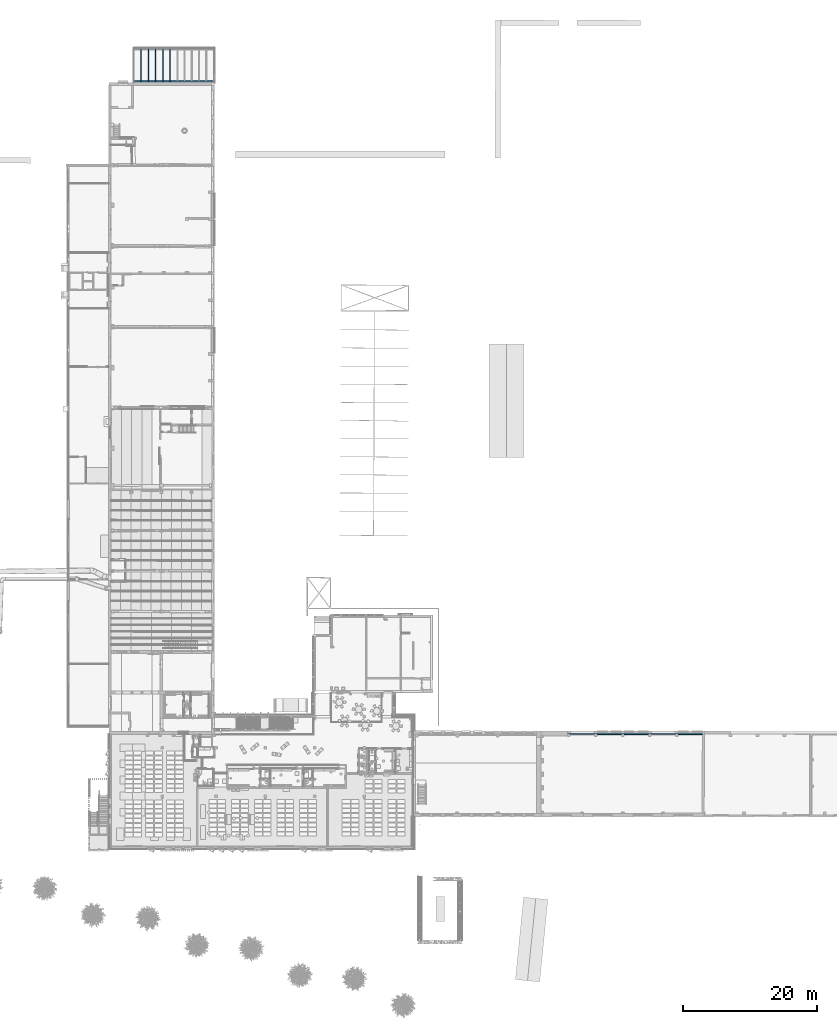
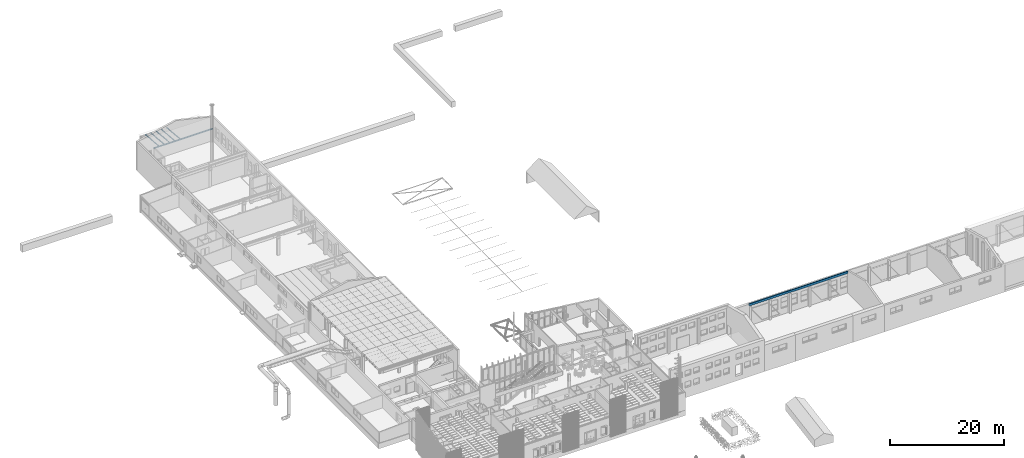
# One storey, part 64 of 301: 7 beams.
"""IFC2X3 building model written with IfcOpenShell, lengths in millimetres."""

from ifc_helpers import new_model, entity, si_unit, converted_unit, derived_unit, money_unit, direction, frame, origin_with_axes, place, context, subcontext, project, spatial, faceted_brep, material, type_object, element, save


model = new_model("IFC2X3")

# Units and contexts
model_context = context("Model", 3, precision=0.01, world=origin_with_axes(), true_north=direction((0.0, 1.0)))
body_context = subcontext(model_context, "Body", "Model", "MODEL_VIEW")
ifc_project = project(units=[si_unit("LENGTHUNIT", "METRE", prefix="MILLI"), si_unit("AREAUNIT", "SQUARE_METRE"), si_unit("VOLUMEUNIT", "CUBIC_METRE"), converted_unit("PLANEANGLEUNIT", "DEGREE", entity("IfcPlaneAngleMeasure", 0.0174532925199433), si_unit("PLANEANGLEUNIT", "RADIAN"), dimensions=[0, 0, 0, 0, 0, 0, 0]), money_unit("EUR"), converted_unit("TIMEUNIT", "Year", entity("IfcTimeMeasure", 31557600.0), si_unit("TIMEUNIT", "SECOND"), dimensions=[0, 0, 1, 0, 0, 0, 0]), si_unit("MASSUNIT", "GRAM", prefix="KILO"), si_unit("THERMODYNAMICTEMPERATUREUNIT", "DEGREE_CELSIUS"), si_unit("LUMINOUSINTENSITYUNIT", "LUMEN"), si_unit("ENERGYUNIT", "JOULE", prefix="MEGA"), derived_unit("THERMALCONDUCTANCEUNIT", [(si_unit("POWERUNIT", "WATT"), 1), (si_unit("LENGTHUNIT", "METRE"), -1), (si_unit("THERMODYNAMICTEMPERATUREUNIT", "KELVIN"), -1)]), derived_unit("SPECIFICHEATCAPACITYUNIT", [(si_unit("ENERGYUNIT", "JOULE"), 1), (si_unit("MASSUNIT", "GRAM", prefix="KILO"), -1), (si_unit("THERMODYNAMICTEMPERATUREUNIT", "KELVIN"), -1)]), derived_unit("MASSDENSITYUNIT", [(si_unit("MASSUNIT", "GRAM", prefix="KILO"), 1), (si_unit("VOLUMEUNIT", "CUBIC_METRE"), -1)])], contexts=[model_context])

# Site, building, storey
site_placement = place(None, frame((0.0, 0.0, 8650.0), z_axis=(0.0, 0.0, 1.0), x_axis=(1.0, 0.0, 0.0)))
site = spatial("IfcSite", under=ifc_project, at=site_placement, Name="43301:001:0844", CompositionType="ELEMENT")
building_placement = place(site_placement, origin_with_axes())
building = spatial("IfcBuilding", under=site, at=building_placement, Name="Kuressaare Ametikooli tuulikute mehaanikute õppekorpus", CompositionType="ELEMENT")
storey_placement = place(building_placement, origin_with_axes())
storey = spatial("IfcBuildingStorey", under=building, at=storey_placement, Name="1.korrus", CompositionType="ELEMENT", Elevation=0.0)

# Beams
ifc_material_1 = material(Name="GENEERILINE - KONSTRUKTRIOON")
beam_type_1 = type_object("IfcBeamType", Name="GENEERILINE - KONSTRUKTRIOON 180 x 460", PredefinedType="NOTDEFINED")
beam_1_placement = place(storey_placement, frame((156141.2380981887, 25872.98866271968, 4270.0), z_axis=(0.0, 0.0, 1.0), x_axis=(0.0, -1.0, 0.0)))
element("IfcBeam", 1, at=beam_1_placement, inside=storey, type_object=beam_type_1, material=ifc_material_1, context=body_context, shape_type="Brep", body=[
    faceted_brep([(0.0, 0.0, 0.0), (0.0, 20090.07618607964, 0.0), (179.9999999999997, 20090.07618607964, 0.0), (179.9999999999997, 0.0, 0.0), (0.0, 0.0, 459.9999999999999), (0.0, 20090.07618607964, 459.9999999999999), (179.9999999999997, 20090.07618607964, 459.9999999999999), (179.9999999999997, 0.0, 459.9999999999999)], [[[0, 1, 2, 3]], [[4, 5, 1, 0]], [[2, 1, 5, 6]], [[3, 2, 6, 7]], [[4, 0, 3, 7]], [[7, 6, 5, 4]]]),
])
ifc_material_2 = material(Name="GENEERILINE - EHITUSTOODE")
beam_type_2 = type_object("IfcBeamType", Name="IPI-I-tala-200x225 200 x 225", PredefinedType="NOTDEFINED")
beam_2_placement = place(storey_placement, frame((103602.1136141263, 122952.7619220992, 1745.182089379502), z_axis=(0.0, 0.0, 1.0), x_axis=(0.001036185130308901, 0.9999994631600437, 0.0)))
element("IfcBeam", 2, at=beam_2_placement, inside=storey, type_object=beam_type_2, material=ifc_material_2, context=body_context, shape_type="Brep", body=[
    faceted_brep([(-100.0000000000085, 0.0, 94.99999999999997), (-100.0000000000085, 11973.87483544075, 94.99999999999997), (-100.0000000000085, 11973.87483544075, 84.99999999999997), (-100.0000000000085, 0.0, 84.99999999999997), (100.0000000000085, 0.0, 94.99999999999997), (100.0000000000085, 11973.87483544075, 94.99999999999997), (100.0000000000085, 11973.87483544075, 84.99999999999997), (21.24999999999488, 11973.87483544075, 84.99999999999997), (12.24999999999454, 11973.87483544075, 82.58845726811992), (5.661542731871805, 11973.87483544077, 76.00000000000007), (3.250000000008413, 11973.87483544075, 66.99999999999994), (3.250000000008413, 11973.87483544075, -102.0000000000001), (5.661542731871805, 11973.87483544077, -111.0), (12.24999999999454, 11973.87483544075, -117.5884572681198), (21.24999999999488, 11973.87483544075, -120.0000000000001), (100.0000000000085, 11973.87483544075, -120.0000000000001), (100.0000000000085, 11973.87483544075, -130.0000000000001), (-100.0000000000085, 11973.87483544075, -130.0000000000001), (-100.0000000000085, 11973.87483544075, -120.0000000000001), (-21.24999999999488, 11973.87483544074, -120.0000000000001), (-12.24999999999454, 11973.87483544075, -117.5884572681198), (-5.661542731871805, 11973.87483544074, -111.0), (-3.250000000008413, 11973.87483544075, -102.0000000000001), (-3.250000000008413, 11973.87483544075, 66.99999999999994), (-5.661542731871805, 11973.87483544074, 76.00000000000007), (-12.24999999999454, 11973.87483544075, 82.58845726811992), (-21.24999999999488, 11973.87483544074, 84.99999999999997), (-21.24999999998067, 0.0, 84.99999999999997), (-12.24999999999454, 0.0, 82.58845726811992), (-5.661542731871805, 0.0, 76.00000000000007), (-3.250000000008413, 0.0, 66.99999999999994), (-3.250000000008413, 0.0, -102.0000000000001), (-5.661542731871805, 0.0, -111.0), (-12.24999999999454, 0.0, -117.5884572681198), (-21.24999999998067, 0.0, -120.0000000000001), (-100.0000000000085, 0.0, -120.0000000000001), (-100.0000000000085, 0.0, -130.0000000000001), (100.0000000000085, 0.0, -130.0000000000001), (100.0000000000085, 0.0, -120.0000000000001), (21.24999999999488, 0.0, -120.0000000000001), (12.24999999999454, 0.0, -117.5884572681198), (5.661542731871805, 0.0, -111.0), (3.250000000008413, 0.0, -102.0000000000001), (3.250000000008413, 0.0, 66.99999999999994), (5.661542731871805, 0.0, 76.00000000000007), (12.24999999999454, 0.0, 82.58845726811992), (21.24999999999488, 0.0, 84.99999999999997), (100.0000000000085, 0.0, 84.99999999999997)], [[[0, 1, 2, 3]], [[4, 5, 1, 0]], [[2, 1, 5, 6, 7, 8, 9, 10, 11, 12, 13, 14, 15, 16, 17, 18, 19, 20, 21, 22, 23, 24, 25, 26]], [[3, 2, 26, 27]], [[4, 0, 3, 27, 28, 29, 30, 31, 32, 33, 34, 35, 36, 37, 38, 39, 40, 41, 42, 43, 44, 45, 46, 47]], [[47, 6, 5, 4]], [[46, 7, 6, 47]], [[45, 8, 7, 46]], [[44, 9, 8, 45]], [[43, 10, 9, 44]], [[42, 11, 10, 43]], [[41, 12, 11, 42]], [[40, 13, 12, 41]], [[39, 14, 13, 40]], [[38, 15, 14, 39]], [[37, 16, 15, 38]], [[36, 17, 16, 37]], [[35, 18, 17, 36]], [[34, 19, 18, 35]], [[33, 20, 19, 34]], [[32, 21, 20, 33]], [[31, 22, 21, 32]], [[30, 23, 22, 31]], [[29, 24, 23, 30]], [[28, 25, 24, 29]], [[27, 26, 25, 28]]]),
])
beam_type_3 = type_object("IfcBeamType", Name="IPI-I-tala-90x120 90 x 120", PredefinedType="NOTDEFINED")
beam_3_placement = place(storey_placement, frame((92740.15139257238, 127722.532628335, 1312.606456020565), z_axis=(0.0, 0.0, 1.0), x_axis=(-1.0, 0.0, 0.0)))
element("IfcBeam", 3, at=beam_3_placement, inside=storey, type_object=beam_type_3, material=ifc_material_1, context=body_context, shape_type="Brep", body=[
    faceted_brep([(45.00000000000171, 99.95342532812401, 104.1131532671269), (45.00000000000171, 4750.191562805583, 511.1915914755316), (-45.00000000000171, 4750.277313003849, 511.1990979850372), (-45.00000000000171, 100.0466820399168, 104.1213168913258), (45.00000000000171, 4753.639546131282, 505.4704799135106), (45.00000000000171, 4752.807522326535, 508.5756333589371), (45.00000000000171, 99.95342532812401, 98.0902077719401), (-45.00617875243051, 4752.900785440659, 508.5756333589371), (-45.00000176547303, 4753.73066554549, 505.4784564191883), (-45.00617875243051, 100.046688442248, 98.09829825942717), (21.24999999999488, 99.97803473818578, 98.09236206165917), (-21.24999999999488, 100.0220726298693, 98.09621710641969), (-19.30906105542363, 100.0200614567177, 97.57563335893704), (19.29583292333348, 99.98005961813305, 97.57563335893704), (-21.24999999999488, 4753.706620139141, 505.4763515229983), (21.24999999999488, 4753.663591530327, 505.4725848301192), (12.20098340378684, 4754.299417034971, 503.1346464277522), (9.29121491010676, 4755.06075823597, 500.3045362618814), (-9.444781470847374, 4755.06075823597, 500.3769901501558), (-12.2408998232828, 4754.329906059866, 503.1153789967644), (-12.2408998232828, 5.357563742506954, 87.39382086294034), (-16.5438034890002, 5.678688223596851, 88.57563335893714), (-19.30906105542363, 6.494384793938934, 89.38846417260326), (19.29583292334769, 6.454382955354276, 89.38846417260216), (12.20098340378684, 5.337648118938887, 87.4140138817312), (16.49095847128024, 5.644458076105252, 88.57563335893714), (5.5565447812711, 4755.06075823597, 496.5865657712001), (5.5565447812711, 3.529713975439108, 80.64102074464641), (-5.641956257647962, 4755.06075823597, 496.5656663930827), (3.097056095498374, 4755.06075823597, 487.523119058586), (3.249999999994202, 4755.06075823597, 415.2507093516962), (5.661542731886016, 4755.06075823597, 406.2162911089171), (12.24999999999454, 4755.06075823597, 399.6026379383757), (21.24999999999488, 4755.06075823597, 397.1818728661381), (45.00000000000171, 4755.06075823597, 397.1818728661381), (45.00000000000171, 4755.06075823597, 391.1589273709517), (-45.00000000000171, 4755.06075823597, 391.1589273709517), (-45.00000000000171, 4755.06075823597, 397.1818728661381), (-21.24999999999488, 4755.06075823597, 397.1818728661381), (-12.39887809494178, 4755.06075823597, 399.7015376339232), (-5.988614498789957, 4755.06075823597, 406.3261167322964), (-3.736834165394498, 4755.06075823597, 415.280559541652), (-3.221350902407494, 4755.06075823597, 487.5259523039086), (-5.641956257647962, 3.535861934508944, 80.62065955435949), (-5.368695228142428, 3.255564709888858, 79.57563335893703), (5.274211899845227, 3.244536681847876, 79.57563335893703), (3.097056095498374, 3.246792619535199, 71.55280730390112), (3.249999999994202, 3.246634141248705, -0.719616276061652), (5.661542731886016, 3.244135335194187, -9.75425326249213), (12.24999999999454, 3.237308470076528, -16.36850405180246), (21.24999999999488, 3.227982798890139, -18.79008548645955), (45.00000000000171, 3.203373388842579, -18.7922397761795), (45.00000000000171, 3.203373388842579, -24.81518527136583), (-45.00000000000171, 3.296630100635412, -24.80702164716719), (-45.00000000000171, 3.296630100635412, -18.78407615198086), (-21.24999999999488, 3.27202069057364, -18.78623044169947), (-12.39887809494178, 3.262849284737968, -16.2673685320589), (-5.988614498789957, 3.256207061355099, -9.643370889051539), (-3.736834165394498, 3.253873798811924, -0.6891323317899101), (-3.221350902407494, 3.253339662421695, 71.55621367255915)], [[[0, 1, 2, 3]], [[4, 5, 1, 0, 6]], [[5, 7, 2, 1]], [[2, 7, 8, 9, 3]], [[10, 6, 0, 3, 9, 11, 12, 13]], [[14, 8, 7, 5, 4, 15, 16, 17, 18, 19]], [[10, 15, 4, 6]], [[9, 8, 14, 11]], [[11, 14, 19, 20, 21, 22, 12]], [[13, 12, 22, 23]], [[24, 16, 15, 10, 13, 23, 25]], [[26, 17, 16, 24, 27]], [[28, 18, 17, 26, 29, 30, 31, 32, 33, 34, 35, 36, 37, 38, 39, 40, 41, 42]], [[20, 19, 18, 28, 43]], [[24, 25, 21, 20, 43, 44, 45, 27]], [[21, 25, 23, 22]], [[26, 27, 45, 46, 29]], [[30, 29, 46, 47]], [[31, 30, 47, 48]], [[32, 31, 48, 49]], [[33, 32, 49, 50]], [[34, 33, 50, 51]], [[35, 34, 51, 52]], [[36, 35, 52, 53]], [[37, 36, 53, 54]], [[38, 37, 54, 55]], [[39, 38, 55, 56]], [[40, 39, 56, 57]], [[41, 40, 57, 58]], [[42, 41, 58, 59]], [[42, 59, 44, 43, 28]], [[57, 56, 55, 54, 53, 52, 51, 50, 49, 48, 47, 46, 45, 44, 59, 58]]]),
])
beam_4_placement = place(storey_placement, frame((93815.15139257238, 127721.4187287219, 1312.606456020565), z_axis=(0.0, 0.0, 1.0), x_axis=(-1.0, 0.0, 0.0)))
element("IfcBeam", 4, at=beam_4_placement, inside=storey, type_object=beam_type_3, material=ifc_material_1, context=body_context, shape_type="Brep", body=[
    faceted_brep([(45.00000000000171, 99.95342532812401, 104.1131532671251), (45.00000000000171, 4750.191562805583, 511.1915914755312), (-45.00000000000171, 4750.277313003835, 511.1990979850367), (-45.00000000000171, 100.0466820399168, 104.121316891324), (45.00000000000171, 4753.639546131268, 505.4704799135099), (45.00000000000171, 4752.807522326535, 508.5756333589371), (45.00000000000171, 99.95342532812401, 98.09020777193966), (-45.00617875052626, 4752.900785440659, 508.5756333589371), (-45.00000028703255, 4753.73066553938, 505.4784564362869), (-45.00617875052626, 100.046688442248, 98.09829825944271), (21.24999999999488, 99.97803473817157, 98.09236206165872), (-21.24999999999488, 100.0220726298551, 98.09621710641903), (-19.30906105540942, 100.0200614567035, 97.57563335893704), (19.29583292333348, 99.98005961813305, 97.57563335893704), (-21.24999999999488, 4753.706620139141, 505.4763515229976), (21.24999999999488, 4753.663591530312, 505.4725848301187), (17.2185658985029, 4753.94685862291, 504.4310081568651), (-17.77754459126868, 4753.94685862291, 504.5663414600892), (-12.2408998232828, 4753.94685862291, 503.0818473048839), (-12.2408998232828, 5.357563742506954, 87.39382086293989), (-16.5438034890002, 5.678688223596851, 88.57563335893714), (-19.30906105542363, 6.494384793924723, 89.38846417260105), (19.29583292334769, 6.454382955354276, 89.38846417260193), (12.20098340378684, 4753.94685862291, 503.1037837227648), (16.49095847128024, 5.644458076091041, 88.57563335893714), (12.20098340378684, 5.337648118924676, 87.41401388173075), (5.5565447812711, 4753.94685862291, 496.4890558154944), (3.097056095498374, 4753.94685862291, 487.4256091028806), (3.249999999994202, 4753.94685862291, 415.1531993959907), (5.661542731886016, 4753.94685862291, 406.1187811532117), (12.24999999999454, 4753.94685862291, 399.5051279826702), (21.24999999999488, 4753.94685862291, 397.0843629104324), (45.00000000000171, 4753.94685862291, 397.0843629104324), (45.00000000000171, 4753.94685862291, 391.061417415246), (-45.00000000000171, 4753.94685862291, 391.061417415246), (-45.00000000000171, 4753.94685862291, 397.0843629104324), (-21.24999999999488, 4753.94685862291, 397.0843629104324), (-12.39887809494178, 4753.94685862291, 399.6040276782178), (-5.988614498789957, 4753.94685862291, 406.2286067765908), (-3.736834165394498, 4753.94685862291, 415.1830495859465), (-3.221350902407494, 4753.94685862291, 487.4284423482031), (-5.641956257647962, 4753.94685862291, 496.4681564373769), (-5.641956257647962, 3.535861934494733, 80.62065955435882), (-5.368695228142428, 3.255564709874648, 79.57563335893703), (5.274211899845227, 3.244536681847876, 79.57563335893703), (5.5565447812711, 3.529713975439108, 80.64102074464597), (3.097056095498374, 3.246792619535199, 71.55280730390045), (3.249999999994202, 3.246634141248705, -0.7196162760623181), (5.661542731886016, 3.244135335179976, -9.754253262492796), (12.24999999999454, 3.237308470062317, -16.36850405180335), (21.24999999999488, 3.227982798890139, -18.79008548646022), (45.00000000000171, 3.203373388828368, -18.79223977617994), (45.00000000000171, 3.203373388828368, -24.81518527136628), (-45.00000000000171, 3.296630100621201, -24.80702164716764), (-45.00000000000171, 3.296630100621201, -18.7840761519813), (-21.24999999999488, 3.27202069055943, -18.78623044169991), (-12.39887809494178, 3.262849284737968, -16.26736853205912), (-5.988614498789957, 3.256207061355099, -9.643370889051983), (-3.736834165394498, 3.253873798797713, -0.6891323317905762), (-3.221350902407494, 3.253339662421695, 71.55621367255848)], [[[0, 1, 2, 3]], [[4, 5, 1, 0, 6]], [[5, 7, 2, 1]], [[2, 7, 8, 9, 3]], [[10, 6, 0, 3, 9, 11, 12, 13]], [[14, 8, 7, 5, 4, 15, 16, 17]], [[10, 15, 4, 6]], [[9, 8, 14, 11]], [[11, 14, 17, 18, 19, 20, 21, 12]], [[13, 12, 21, 22]], [[23, 16, 15, 10, 13, 22, 24, 25]], [[18, 17, 16, 23, 26, 27, 28, 29, 30, 31, 32, 33, 34, 35, 36, 37, 38, 39, 40, 41]], [[18, 41, 42, 19]], [[25, 24, 20, 19, 42, 43, 44, 45]], [[20, 24, 22, 21]], [[26, 23, 25, 45]], [[26, 45, 44, 46, 27]], [[28, 27, 46, 47]], [[29, 28, 47, 48]], [[30, 29, 48, 49]], [[31, 30, 49, 50]], [[32, 31, 50, 51]], [[33, 32, 51, 52]], [[34, 33, 52, 53]], [[35, 34, 53, 54]], [[36, 35, 54, 55]], [[37, 36, 55, 56]], [[38, 37, 56, 57]], [[39, 38, 57, 58]], [[40, 39, 58, 59]], [[40, 59, 43, 42, 41]], [[57, 56, 55, 54, 53, 52, 51, 50, 49, 48, 47, 46, 44, 43, 59, 58]]]),
])
beam_5_placement = place(storey_placement, frame((94890.15139257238, 127720.3048291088, 1312.606456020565), z_axis=(0.0, 0.0, 1.0), x_axis=(-1.0, 0.0, 0.0)))
element("IfcBeam", 5, at=beam_5_placement, inside=storey, type_object=beam_type_3, material=ifc_material_1, context=body_context, shape_type="Brep", body=[
    faceted_brep([(45.00000000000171, 99.95342532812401, 104.1131532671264), (45.00000000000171, 4750.191562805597, 511.1915914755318), (-45.00000000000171, 4750.277313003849, 511.1990979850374), (-45.00000000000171, 100.0466820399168, 104.1213168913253), (45.00000000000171, 4752.832959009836, 508.4807024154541), (45.00000000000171, 4752.807522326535, 508.5756333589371), (45.00000000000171, 99.95342532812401, 98.09020777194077), (45.00000000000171, 4752.832959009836, 505.3998718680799), (20.4516168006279, 4752.832959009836, 508.5756333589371), (-45.00000000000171, 4752.832959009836, 508.6434533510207), (-45.00000000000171, 4752.832959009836, 505.3998718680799), (-45.00617874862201, 100.046688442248, 98.09829825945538), (21.24999999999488, 99.97803473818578, 98.09236206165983), (-21.24999999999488, 100.0220726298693, 98.09621710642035), (-19.30906105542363, 100.0200614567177, 97.57563335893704), (19.29583292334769, 99.98005961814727, 97.57563335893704), (21.24999999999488, 4752.832959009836, 505.3998718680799), (12.20098340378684, 4752.832959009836, 503.006273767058), (5.5565447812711, 4752.832959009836, 496.3915458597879), (3.097056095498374, 4752.832959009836, 487.3280991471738), (3.249999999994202, 4752.832959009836, 415.0556894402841), (5.661542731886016, 4752.832959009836, 406.0212711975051), (12.24999999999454, 4752.832959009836, 399.4076180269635), (21.24999999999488, 4752.832959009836, 396.9868529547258), (45.00000000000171, 4752.832959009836, 396.9868529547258), (45.00000000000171, 4752.832959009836, 390.9639074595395), (-45.00000000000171, 4752.832959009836, 390.9639074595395), (-45.00000000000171, 4752.832959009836, 396.9868529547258), (-21.24999999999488, 4752.832959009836, 396.9868529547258), (-12.39887809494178, 4752.832959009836, 399.5065177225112), (-5.988614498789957, 4752.832959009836, 406.1310968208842), (-3.736834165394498, 4752.832959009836, 415.0855396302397), (-3.221350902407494, 4752.832959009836, 487.3309323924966), (-5.641956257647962, 4752.832959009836, 496.3706464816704), (-12.2408998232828, 4752.832959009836, 502.9843373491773), (-21.24999999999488, 4752.832959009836, 505.3998718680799), (-12.2408998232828, 5.357563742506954, 87.39382086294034), (-16.54380348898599, 5.678688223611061, 88.57563335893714), (-19.30906105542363, 6.494384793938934, 89.38846417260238), (19.29583292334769, 6.454382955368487, 89.38846417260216), (16.49095847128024, 5.644458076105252, 88.57563335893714), (12.20098340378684, 5.337648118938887, 87.41401388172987), (5.5565447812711, 3.529713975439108, 80.64102074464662), (5.274211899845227, 3.244536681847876, 79.57563335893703), (3.097056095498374, 3.246792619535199, 71.55280730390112), (3.249999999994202, 3.246634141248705, -0.7196162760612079), (5.661542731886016, 3.244135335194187, -9.754253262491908), (12.24999999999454, 3.237308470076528, -16.36850405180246), (21.24999999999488, 3.227982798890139, -18.79008548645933), (45.00000000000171, 3.203373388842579, -18.79223977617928), (45.00000000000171, 3.203373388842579, -24.81518527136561), (-45.00000000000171, 3.296630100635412, -24.80702164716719), (-45.00000000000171, 3.296630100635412, -18.78407615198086), (-21.24999999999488, 3.27202069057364, -18.78623044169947), (-12.39887809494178, 3.262849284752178, -16.26736853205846), (-5.988614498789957, 3.256207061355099, -9.643370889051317), (-3.736834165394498, 3.253873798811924, -0.6891323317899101), (-3.221350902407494, 3.253339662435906, 71.55621367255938), (-5.368695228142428, 3.255564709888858, 79.57563335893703), (-5.641956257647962, 3.535861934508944, 80.6206595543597)], [[[0, 1, 2, 3]], [[4, 5, 1, 0, 6, 7]], [[8, 9, 2, 1, 5]], [[3, 2, 9, 10, 11]], [[12, 6, 0, 3, 11, 13, 14, 15]], [[5, 4, 8]], [[16, 7, 6, 12]], [[9, 8, 4, 7, 16, 17, 18, 19, 20, 21, 22, 23, 24, 25, 26, 27, 28, 29, 30, 31, 32, 33, 34, 35, 10]], [[10, 35, 13, 11]], [[34, 36, 37, 38, 14, 13, 35]], [[15, 14, 38, 39]], [[15, 39, 40, 41, 17, 16, 12]], [[18, 17, 41, 42]], [[18, 42, 43, 44, 19]], [[20, 19, 44, 45]], [[21, 20, 45, 46]], [[22, 21, 46, 47]], [[23, 22, 47, 48]], [[24, 23, 48, 49]], [[25, 24, 49, 50]], [[26, 25, 50, 51]], [[27, 26, 51, 52]], [[28, 27, 52, 53]], [[29, 28, 53, 54]], [[30, 29, 54, 55]], [[31, 30, 55, 56]], [[32, 31, 56, 57]], [[32, 57, 58, 59, 33]], [[34, 33, 59, 36]], [[41, 40, 37, 36, 59, 58, 43, 42]], [[37, 40, 39, 38]], [[55, 54, 53, 52, 51, 50, 49, 48, 47, 46, 45, 44, 43, 58, 57, 56]]]),
])
beam_6_placement = place(storey_placement, frame((95965.1513925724, 127719.1909294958, 1312.606456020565), z_axis=(0.0, 0.0, 1.0), x_axis=(-1.0, 0.0, 0.0)))
element("IfcBeam", 6, at=beam_6_placement, inside=storey, type_object=beam_type_3, material=ifc_material_1, context=body_context, shape_type="Brep", body=[
    faceted_brep([(45.00000000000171, 99.95342532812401, 104.113153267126), (45.00000000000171, 4750.191562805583, 511.1915914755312), (-45.00000000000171, 4750.277313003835, 511.1990979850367), (-45.00000000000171, 100.0466820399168, 104.1213168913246), (45.00000000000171, 4751.719059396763, 505.3023619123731), (45.00000000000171, 4751.719059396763, 509.664095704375), (45.00000000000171, 99.95342532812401, 98.0902077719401), (-45.00000000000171, 4751.719059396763, 509.757352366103), (-45.00000000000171, 4751.719059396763, 505.3023619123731), (-45.00617874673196, 100.046688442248, 98.09829825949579), (21.24999999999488, 99.97803473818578, 98.09236206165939), (-21.24999999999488, 100.0220726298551, 98.09621710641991), (-19.30906105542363, 100.0200614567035, 97.57563335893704), (19.29583292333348, 99.98005961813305, 97.57563335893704), (21.24999999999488, 4751.719059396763, 505.3023619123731), (12.20098340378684, 4751.719059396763, 502.9087638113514), (5.5565447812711, 4751.719059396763, 496.2940359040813), (3.097056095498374, 4751.719059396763, 487.230589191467), (3.249999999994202, 4751.719059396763, 414.9581794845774), (5.661542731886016, 4751.719059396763, 405.9237612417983), (12.24999999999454, 4751.719059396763, 399.3101080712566), (21.24999999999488, 4751.719059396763, 396.889342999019), (45.00000000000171, 4751.719059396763, 396.889342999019), (45.00000000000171, 4751.719059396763, 390.8663975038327), (-45.00000000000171, 4751.719059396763, 390.8663975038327), (-45.00000000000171, 4751.719059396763, 396.889342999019), (-21.24999999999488, 4751.719059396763, 396.889342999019), (-12.39887809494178, 4751.719059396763, 399.4090077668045), (-5.988614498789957, 4751.719059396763, 406.0335868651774), (-3.736834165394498, 4751.719059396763, 414.988029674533), (-3.221350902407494, 4751.719059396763, 487.2334224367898), (-5.641956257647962, 4751.719059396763, 496.2731365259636), (-12.2408998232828, 4751.719059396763, 502.8868273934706), (-21.24999999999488, 4751.719059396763, 505.3023619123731), (-12.2408998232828, 5.357563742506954, 87.39382086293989), (-16.5438034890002, 5.678688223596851, 88.57563335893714), (-19.30906105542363, 6.494384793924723, 89.38846417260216), (19.29583292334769, 6.454382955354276, 89.38846417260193), (16.49095847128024, 5.644458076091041, 88.57563335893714), (12.20098340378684, 5.337648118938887, 87.41401388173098), (5.5565447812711, 3.529713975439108, 80.64102074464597), (5.274211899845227, 3.244536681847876, 79.57563335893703), (3.097056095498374, 3.246792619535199, 71.55280730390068), (3.249999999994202, 3.246634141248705, -0.7196162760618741), (5.661542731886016, 3.244135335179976, -9.754253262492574), (12.24999999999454, 3.237308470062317, -16.3685040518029), (21.24999999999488, 3.227982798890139, -18.79008548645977), (45.00000000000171, 3.203373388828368, -18.7922397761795), (45.00000000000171, 3.203373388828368, -24.81518527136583), (-45.00000000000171, 3.296630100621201, -24.80702164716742), (-45.00000000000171, 3.296630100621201, -18.78407615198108), (-21.24999999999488, 3.27202069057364, -18.78623044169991), (-12.39887809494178, 3.262849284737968, -16.2673685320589), (-5.988614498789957, 3.256207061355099, -9.643370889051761), (-3.736834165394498, 3.253873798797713, -0.6891323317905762), (-3.221350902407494, 3.253339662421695, 71.55621367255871), (-5.368695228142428, 3.255564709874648, 79.57563335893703), (-5.641956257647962, 3.535861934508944, 80.62065955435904)], [[[0, 1, 2, 3]], [[4, 5, 1, 0, 6]], [[5, 7, 2, 1]], [[3, 2, 7, 8, 9]], [[10, 6, 0, 3, 9, 11, 12, 13]], [[8, 7, 5, 4, 14, 15, 16, 17, 18, 19, 20, 21, 22, 23, 24, 25, 26, 27, 28, 29, 30, 31, 32, 33]], [[14, 4, 6, 10]], [[8, 33, 11, 9]], [[32, 34, 35, 36, 12, 11, 33]], [[13, 12, 36, 37]], [[13, 37, 38, 39, 15, 14, 10]], [[16, 15, 39, 40]], [[16, 40, 41, 42, 17]], [[18, 17, 42, 43]], [[19, 18, 43, 44]], [[20, 19, 44, 45]], [[21, 20, 45, 46]], [[22, 21, 46, 47]], [[23, 22, 47, 48]], [[24, 23, 48, 49]], [[25, 24, 49, 50]], [[26, 25, 50, 51]], [[27, 26, 51, 52]], [[28, 27, 52, 53]], [[29, 28, 53, 54]], [[30, 29, 54, 55]], [[30, 55, 56, 57, 31]], [[32, 31, 57, 34]], [[39, 38, 35, 34, 57, 56, 41, 40]], [[35, 38, 37, 36]], [[53, 52, 51, 50, 49, 48, 47, 46, 45, 44, 43, 42, 41, 56, 55, 54]]]),
])
beam_7_placement = place(storey_placement, frame((97040.1513925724, 127718.0770298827, 1312.606456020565), z_axis=(0.0, 0.0, 1.0), x_axis=(-1.0, 0.0, 0.0)))
element("IfcBeam", 7, at=beam_7_placement, inside=storey, type_object=beam_type_3, material=ifc_material_1, context=body_context, shape_type="Brep", body=[
    faceted_brep([(45.00000000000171, 99.95342532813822, 104.1131532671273), (45.00000000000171, 4750.191562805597, 511.1915914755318), (-45.00000000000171, 4750.277313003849, 511.1990979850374), (-45.00000000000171, 100.0466820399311, 104.121316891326), (45.00000000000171, 4750.605159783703, 505.2048519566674), (45.00000000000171, 4750.605159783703, 510.7779947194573), (45.00000000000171, 99.95342532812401, 98.09020777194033), (-45.00000000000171, 4750.605159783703, 510.8712513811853), (-45.00000000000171, 4750.605159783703, 505.2048519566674), (-45.00617874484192, 100.046688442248, 98.09829825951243), (21.24999999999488, 99.97803473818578, 98.09236206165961), (-21.24999999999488, 100.0220726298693, 98.09621710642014), (-19.30906105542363, 100.0200614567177, 97.57563335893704), (19.29583292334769, 99.98005961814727, 97.57563335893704), (21.24999999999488, 4750.605159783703, 505.2048519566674), (12.20098340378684, 4750.605159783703, 502.8112538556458), (5.5565447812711, 4750.605159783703, 496.1965259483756), (3.097056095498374, 4750.605159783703, 487.1330792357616), (3.249999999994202, 4750.605159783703, 414.8606695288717), (5.661542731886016, 4750.605159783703, 405.8262512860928), (12.24999999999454, 4750.605159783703, 399.2125981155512), (21.24999999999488, 4750.605159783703, 396.7918330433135), (45.00000000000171, 4750.605159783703, 396.7918330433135), (45.00000000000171, 4750.605159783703, 390.7688875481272), (-45.00000000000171, 4750.605159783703, 390.7688875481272), (-45.00000000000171, 4750.605159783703, 396.7918330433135), (-21.24999999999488, 4750.605159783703, 396.7918330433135), (-12.39887809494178, 4750.605159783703, 399.3114978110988), (-5.988614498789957, 4750.605159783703, 405.936076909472), (-3.736834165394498, 4750.605159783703, 414.8905197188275), (-3.221350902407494, 4750.605159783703, 487.1359124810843), (-5.641956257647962, 4750.605159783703, 496.1756265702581), (-12.2408998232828, 4750.605159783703, 502.7893174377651), (-21.24999999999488, 4750.605159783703, 505.2048519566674), (-12.2408998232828, 5.357563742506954, 87.39382086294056), (-16.5438034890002, 5.678688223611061, 88.57563335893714), (-19.30906105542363, 6.494384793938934, 89.38846417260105), (19.29583292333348, 6.454382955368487, 89.38846417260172), (16.49095847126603, 5.644458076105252, 88.57563335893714), (12.20098340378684, 5.337648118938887, 87.41401388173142), (5.5565447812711, 3.529713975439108, 80.64102074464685), (5.274211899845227, 3.244536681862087, 79.57563335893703), (3.097056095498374, 3.246792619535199, 71.55280730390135), (3.249999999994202, 3.246634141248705, -0.7196162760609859), (5.661542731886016, 3.244135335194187, -9.754253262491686), (12.24999999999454, 3.237308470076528, -16.36850405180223), (21.24999999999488, 3.227982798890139, -18.79008548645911), (45.00000000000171, 3.203373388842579, -18.79223977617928), (45.00000000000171, 3.203373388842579, -24.81518527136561), (-45.00000000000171, 3.296630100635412, -24.80702164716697), (-45.00000000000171, 3.296630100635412, -18.78407615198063), (-21.24999999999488, 3.27202069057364, -18.78623044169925), (-12.39887809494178, 3.262849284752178, -16.26736853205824), (-5.988614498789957, 3.256207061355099, -9.643370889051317), (-3.736834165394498, 3.253873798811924, -0.689132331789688), (-3.221350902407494, 3.253339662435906, 71.5562136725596), (-5.368695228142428, 3.255564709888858, 79.57563335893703), (-5.641956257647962, 3.535861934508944, 80.62065955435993)], [[[0, 1, 2, 3]], [[4, 5, 1, 0, 6]], [[5, 7, 2, 1]], [[3, 2, 7, 8, 9]], [[10, 6, 0, 3, 9, 11, 12, 13]], [[8, 7, 5, 4, 14, 15, 16, 17, 18, 19, 20, 21, 22, 23, 24, 25, 26, 27, 28, 29, 30, 31, 32, 33]], [[14, 4, 6, 10]], [[8, 33, 11, 9]], [[32, 34, 35, 36, 12, 11, 33]], [[13, 12, 36, 37]], [[13, 37, 38, 39, 15, 14, 10]], [[16, 15, 39, 40]], [[16, 40, 41, 42, 17]], [[18, 17, 42, 43]], [[19, 18, 43, 44]], [[20, 19, 44, 45]], [[21, 20, 45, 46]], [[22, 21, 46, 47]], [[23, 22, 47, 48]], [[24, 23, 48, 49]], [[25, 24, 49, 50]], [[26, 25, 50, 51]], [[27, 26, 51, 52]], [[28, 27, 52, 53]], [[29, 28, 53, 54]], [[30, 29, 54, 55]], [[30, 55, 56, 57, 31]], [[32, 31, 57, 34]], [[39, 38, 35, 34, 57, 56, 41, 40]], [[35, 38, 37, 36]], [[53, 52, 51, 50, 49, 48, 47, 46, 45, 44, 43, 42, 41, 56, 55, 54]]]),
])

save(model, "model.ifc")
